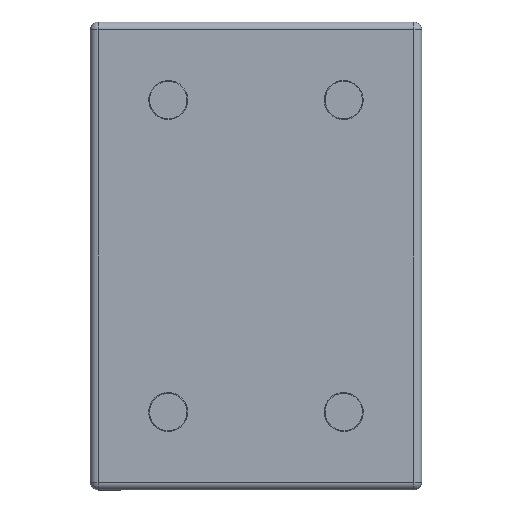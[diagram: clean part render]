
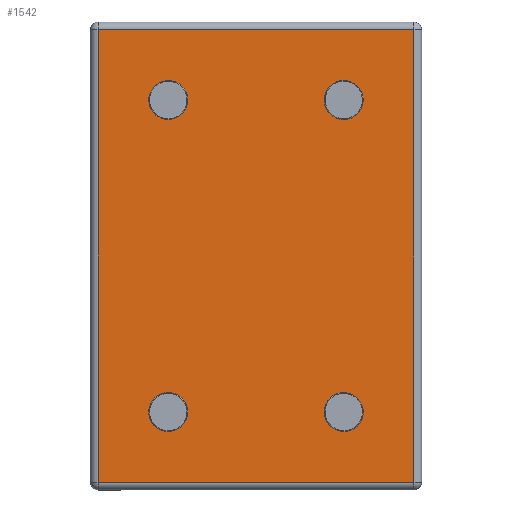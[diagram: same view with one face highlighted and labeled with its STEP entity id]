
A CAD part, front view. The second image highlights one B-rep face of the part: STEP entity #1542.
In plain terms, the highlighted planar face has unit normal (0, -1, 0).
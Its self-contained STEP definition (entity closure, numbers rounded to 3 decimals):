
#23=FACE_BOUND('',#411,.T.);
#24=FACE_BOUND('',#412,.T.);
#25=FACE_BOUND('',#413,.T.);
#26=FACE_BOUND('',#414,.T.);
#61=PLANE('',#1658);
#92=LINE('',#2446,#187);
#93=LINE('',#2448,#188);
#94=LINE('',#2450,#189);
#95=LINE('',#2451,#190);
#187=VECTOR('',#1903,10.);
#188=VECTOR('',#1904,10.);
#189=VECTOR('',#1905,10.);
#190=VECTOR('',#1906,10.);
#324=FACE_OUTER_BOUND('',#410,.T.);
#410=EDGE_LOOP('',(#1080,#1081,#1082,#1083));
#411=EDGE_LOOP('',(#1084,#1085));
#412=EDGE_LOOP('',(#1086,#1087));
#413=EDGE_LOOP('',(#1088,#1089));
#414=EDGE_LOOP('',(#1090,#1091));
#529=CIRCLE('',#1645,4.8);
#533=CIRCLE('',#1649,4.8);
#539=CIRCLE('',#1659,4.8);
#540=CIRCLE('',#1660,4.8);
#541=CIRCLE('',#1661,4.8);
#542=CIRCLE('',#1662,4.8);
#543=CIRCLE('',#1663,4.8);
#544=CIRCLE('',#1664,4.8);
#669=VERTEX_POINT('',#2421);
#670=VERTEX_POINT('',#2422);
#677=VERTEX_POINT('',#2444);
#678=VERTEX_POINT('',#2445);
#679=VERTEX_POINT('',#2447);
#680=VERTEX_POINT('',#2449);
#681=VERTEX_POINT('',#2452);
#682=VERTEX_POINT('',#2453);
#683=VERTEX_POINT('',#2456);
#684=VERTEX_POINT('',#2457);
#685=VERTEX_POINT('',#2460);
#686=VERTEX_POINT('',#2461);
#825=EDGE_CURVE('',#669,#670,#529,.T.);
#829=EDGE_CURVE('',#670,#669,#533,.T.);
#836=EDGE_CURVE('',#677,#678,#92,.T.);
#837=EDGE_CURVE('',#679,#677,#93,.T.);
#838=EDGE_CURVE('',#680,#679,#94,.T.);
#839=EDGE_CURVE('',#678,#680,#95,.T.);
#840=EDGE_CURVE('',#681,#682,#539,.T.);
#841=EDGE_CURVE('',#682,#681,#540,.T.);
#842=EDGE_CURVE('',#683,#684,#541,.T.);
#843=EDGE_CURVE('',#684,#683,#542,.T.);
#844=EDGE_CURVE('',#685,#686,#543,.T.);
#845=EDGE_CURVE('',#686,#685,#544,.T.);
#1080=ORIENTED_EDGE('',*,*,#836,.F.);
#1081=ORIENTED_EDGE('',*,*,#837,.F.);
#1082=ORIENTED_EDGE('',*,*,#838,.F.);
#1083=ORIENTED_EDGE('',*,*,#839,.F.);
#1084=ORIENTED_EDGE('',*,*,#840,.F.);
#1085=ORIENTED_EDGE('',*,*,#841,.F.);
#1086=ORIENTED_EDGE('',*,*,#842,.F.);
#1087=ORIENTED_EDGE('',*,*,#843,.F.);
#1088=ORIENTED_EDGE('',*,*,#844,.F.);
#1089=ORIENTED_EDGE('',*,*,#845,.F.);
#1090=ORIENTED_EDGE('',*,*,#825,.F.);
#1091=ORIENTED_EDGE('',*,*,#829,.F.);
#1542=ADVANCED_FACE('',(#324,#23,#24,#25,#26),#61,.F.);
#1645=AXIS2_PLACEMENT_3D('',#2423,#1874,#1875);
#1649=AXIS2_PLACEMENT_3D('',#2429,#1882,#1883);
#1658=AXIS2_PLACEMENT_3D('',#2443,#1901,#1902);
#1659=AXIS2_PLACEMENT_3D('',#2454,#1907,#1908);
#1660=AXIS2_PLACEMENT_3D('',#2455,#1909,#1910);
#1661=AXIS2_PLACEMENT_3D('',#2458,#1911,#1912);
#1662=AXIS2_PLACEMENT_3D('',#2459,#1913,#1914);
#1663=AXIS2_PLACEMENT_3D('',#2462,#1915,#1916);
#1664=AXIS2_PLACEMENT_3D('',#2463,#1917,#1918);
#1874=DIRECTION('center_axis',(0.,-1.,0.));
#1875=DIRECTION('ref_axis',(0.,0.,1.));
#1882=DIRECTION('center_axis',(0.,-1.,0.));
#1883=DIRECTION('ref_axis',(0.,0.,1.));
#1901=DIRECTION('center_axis',(0.,1.,0.));
#1902=DIRECTION('ref_axis',(0.,0.,
1.));
#1903=DIRECTION('',(-1.,0.,0.));
#1904=DIRECTION('',(0.,0.,-1.));
#1905=DIRECTION('',(1.,0.,0.));
#1906=DIRECTION('',(0.,0.,1.));
#1907=DIRECTION('center_axis',(0.,-1.,0.));
#1908=DIRECTION('ref_axis',(0.,0.,1.));
#1909=DIRECTION('center_axis',(0.,-1.,0.));
#1910=DIRECTION('ref_axis',(0.,0.,1.));
#1911=DIRECTION('center_axis',(0.,-1.,0.));
#1912=DIRECTION('ref_axis',(0.,0.,1.));
#1913=DIRECTION('center_axis',(0.,-1.,0.));
#1914=DIRECTION('ref_axis',(0.,0.,1.));
#1915=DIRECTION('center_axis',(0.,-1.,0.));
#1916=DIRECTION('ref_axis',(0.,0.,1.));
#1917=DIRECTION('center_axis',(0.,-1.,0.));
#1918=DIRECTION('ref_axis',(0.,0.,1.));
#2421=CARTESIAN_POINT('',(151.252,-87.904,-35.153));
#2422=CARTESIAN_POINT('',(157.974,-87.904,-34.208));
#2423=CARTESIAN_POINT('Origin',(155.086,-87.904,-38.042));
#2429=CARTESIAN_POINT('Origin',(155.086,-87.904,-38.042));
#2443=CARTESIAN_POINT('Origin',(177.586,-87.904,1.958));
#2444=CARTESIAN_POINT('',(218.086,-87.904,-56.042));
#2445=CARTESIAN_POINT('',(137.086,-87.904,-56.042));
#2446=CARTESIAN_POINT('',(198.836,-87.904,-56.042));
#2447=CARTESIAN_POINT('',(218.086,-87.904,59.958));
#2448=CARTESIAN_POINT('',(218.086,-87.904,31.958));
#2449=CARTESIAN_POINT('',(137.086,-87.904,59.958));
#2450=CARTESIAN_POINT('',(156.336,-87.904,59.958));
#2451=CARTESIAN_POINT('',(137.086,-87.904,-28.042));
#2452=CARTESIAN_POINT('',(204.698,-87.904,-39.37));
#2453=CARTESIAN_POINT('',(198.757,-87.904,-42.654));
#2454=CARTESIAN_POINT('Origin',(200.086,-87.904,-38.042));
#2455=CARTESIAN_POINT('Origin',(200.086,-87.904,-38.042));
#2456=CARTESIAN_POINT('',(204.865,-87.904,42.409));
#2457=CARTESIAN_POINT('',(200.537,-87.904,37.179));
#2458=CARTESIAN_POINT('Origin',(200.086,-87.904,41.958));
#2459=CARTESIAN_POINT('Origin',(200.086,-87.904,41.958));
#2460=CARTESIAN_POINT('',(156.395,-87.904,37.34));
#2461=CARTESIAN_POINT('',(150.468,-87.904,40.649));
#2462=CARTESIAN_POINT('Origin',(155.086,-87.904,41.958));
#2463=CARTESIAN_POINT('Origin',(155.086,-87.904,41.958));
